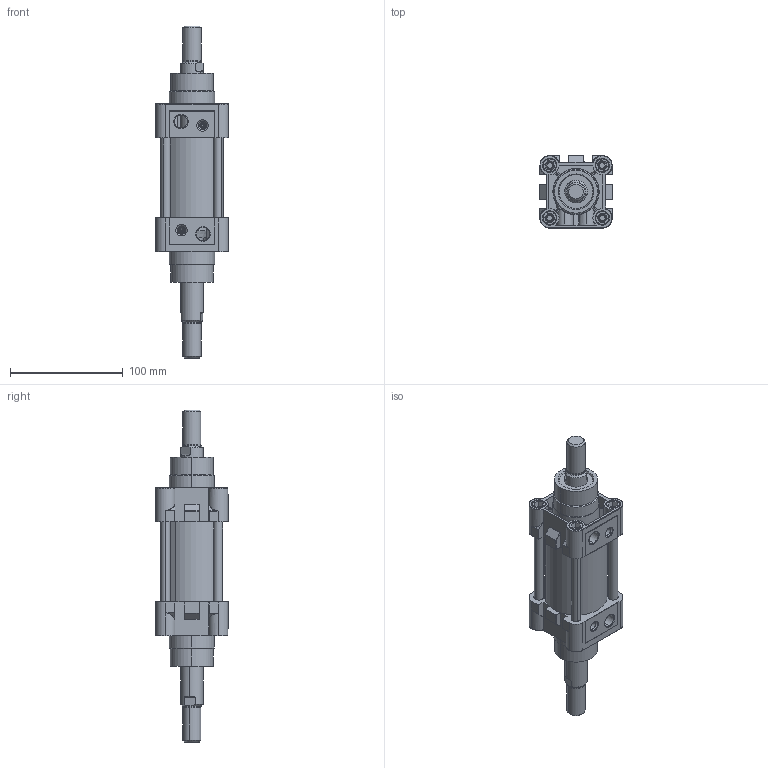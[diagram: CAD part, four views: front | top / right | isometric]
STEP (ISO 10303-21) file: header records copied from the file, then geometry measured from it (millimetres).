
FILE_DESCRIPTION (( 'STEP AP203' ), '1' );
FILE_NAME ('TDNC50X25CIFTMILLI-CYLINDER.STEP', '2016-04-05T12:50:55', ( 'user' ), ( '' ), 'SwSTEP 2.0', 'SolidWorks 2013', '' );
FILE_SCHEMA (( 'CONFIG_CONTROL_DESIGN' ));
Length unit declared in the file: millimetre
Products named in the file (8): SAPLAMALI M尳 50x25.; TDNC 50x25 BORU; TDNC 50x25 SAPLAMA; TDNC50X25CIFTMILLI-CYLINDER; 烰 KAPAK  50; CIVATA 50; ORTA PÝSTON 50 Çift Milli; Piston Mili 50x25
Assembly tree (18 placements, depth 2):
  TDNC50X25CIFTMILLI-CYLINDER
    烰 KAPAK  50  x2
    CIVATA 50  x8
    ORTA PÝSTON 50 Çift Milli
    Piston Mili 50x25
    SAPLAMALI M尳 50x25.
    TDNC 50x25 BORU
    TDNC 50x25 SAPLAMA  x4
Bounding box: 64 x 64.3 x 293.9 mm (x, y, z)
Volume: 354671 mm3; surface area: 172962.6 mm2
Topology: 25 solids, 25 shells, 1063 faces, 2499 edges, 1563 vertices
Faces by surface type: plane 442, cylinder 433, cone 100, bspline 88
Entity records: 20829 total; most frequent: CARTESIAN_POINT 7701, DIRECTION 2511, ORIENTED_EDGE 2494, EDGE_CURVE 1247, AXIS2_PLACEMENT_3D 985, VERTEX_POINT 795, EDGE_LOOP 606, VECTOR 541
